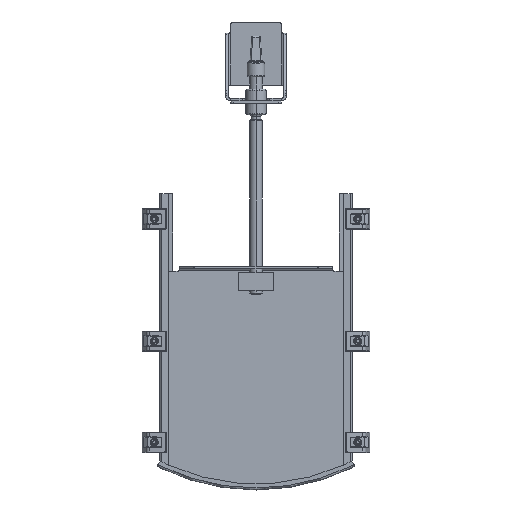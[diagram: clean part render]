
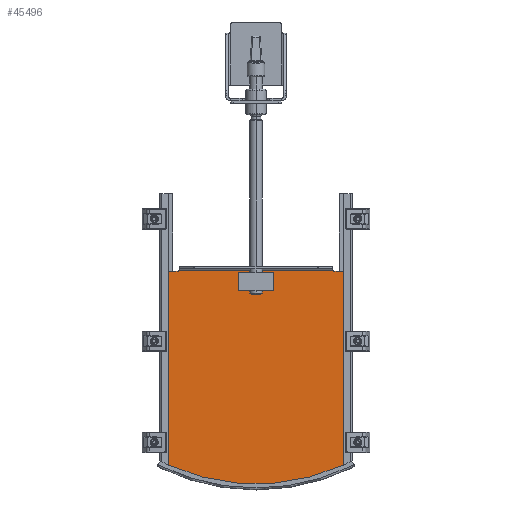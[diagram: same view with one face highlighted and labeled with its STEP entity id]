
A CAD part, top view. The second image highlights one B-rep face of the part: STEP entity #45496.
In plain terms, the highlighted planar face has unit normal (0, 0, 1).
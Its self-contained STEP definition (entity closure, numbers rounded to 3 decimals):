
#526 = CARTESIAN_POINT ( 'NONE',  ( -180., 422., 33. ) ) ;
#1391 = LINE ( 'NONE', #26203, #12256 ) ;
#1488 = CARTESIAN_POINT ( 'NONE',  ( -34., 417.5, 33. ) ) ;
#1587 = VERTEX_POINT ( 'NONE', #13048 ) ;
#1876 = VERTEX_POINT ( 'NONE', #27683 ) ;
#2156 = FACE_BOUND ( 'NONE', #32836, .T. ) ;
#3061 = VERTEX_POINT ( 'NONE', #12238 ) ;
#3088 = CARTESIAN_POINT ( 'NONE',  ( 173.172, 420., 33. ) ) ;
#3237 = CIRCLE ( 'NONE', #26691, 2. ) ;
#4096 = DIRECTION ( 'NONE',  ( 1., 0., 0. ) ) ;
#4277 = ORIENTED_EDGE ( 'NONE', *, *, #11898, .F. ) ;
#4356 = AXIS2_PLACEMENT_3D ( 'NONE', #22464, #11662, #4096 ) ;
#5110 = ORIENTED_EDGE ( 'NONE', *, *, #24823, .F. ) ;
#5684 = ORIENTED_EDGE ( 'NONE', *, *, #29035, .T. ) ;
#7164 = EDGE_CURVE ( 'NONE', #1587, #43551, #18229, .T. ) ;
#8668 = DIRECTION ( 'NONE',  ( 0., 1., 0. ) ) ;
#8710 = VERTEX_POINT ( 'NONE', #39878 ) ;
#9760 = DIRECTION ( 'NONE',  ( 1., 0., 0. ) ) ;
#10350 = ORIENTED_EDGE ( 'NONE', *, *, #38325, .T. ) ;
#10518 = VERTEX_POINT ( 'NONE', #21003 ) ;
#10664 = DIRECTION ( 'NONE',  ( 1., 0., 0. ) ) ;
#10809 = DIRECTION ( 'NONE',  ( 1., 0., 0. ) ) ;
#10877 = DIRECTION ( 'NONE',  ( 0., 0., -1. ) ) ;
#11662 = DIRECTION ( 'NONE',  ( 0., 0., 1. ) ) ;
#11898 = EDGE_CURVE ( 'NONE', #40468, #38365, #12506, .T. ) ;
#12238 = CARTESIAN_POINT ( 'NONE',  ( 172.995, 37.282, 33. ) ) ;
#12256 = VECTOR ( 'NONE', #15409, 1000. ) ;
#12506 = LINE ( 'NONE', #1488, #25665 ) ;
#13048 = CARTESIAN_POINT ( 'NONE',  ( -152., 422., 33. ) ) ;
#13473 = ORIENTED_EDGE ( 'NONE', *, *, #30417, .T. ) ;
#14190 = CARTESIAN_POINT ( 'NONE',  ( 152., 422., 33. ) ) ;
#14814 = EDGE_CURVE ( 'NONE', #38365, #10518, #1391, .T. ) ;
#15236 = ORIENTED_EDGE ( 'NONE', *, *, #14814, .F. ) ;
#15409 = DIRECTION ( 'NONE',  ( 1., 0., 0. ) ) ;
#15532 = ORIENTED_EDGE ( 'NONE', *, *, #7164, .F. ) ;
#16833 = VECTOR ( 'NONE', #23739, 1000. ) ;
#17862 = LINE ( 'NONE', #32555, #42089 ) ;
#18229 = LINE ( 'NONE', #526, #30090 ) ;
#18310 = DIRECTION ( 'NONE',  ( -1., 0., 0. ) ) ;
#19738 = EDGE_CURVE ( 'NONE', #43050, #40468, #17862, .T. ) ;
#19849 = PLANE ( 'NONE',  #23550 ) ;
#20016 = DIRECTION ( 'NONE',  ( 0., -1., 0. ) ) ;
#20368 = ORIENTED_EDGE ( 'NONE', *, *, #44498, .T. ) ;
#20596 = EDGE_CURVE ( 'NONE', #8710, #43551, #3237, .T. ) ;
#21003 = CARTESIAN_POINT ( 'NONE',  ( 34., 382.5, 33. ) ) ;
#21004 = DIRECTION ( 'NONE',  ( -1., 0., 0. ) ) ;
#21780 = CARTESIAN_POINT ( 'NONE',  ( -34., 382.5, 33. ) ) ;
#22015 = CARTESIAN_POINT ( 'NONE',  ( -34., 417.5, 33. ) ) ;
#22464 = CARTESIAN_POINT ( 'NONE',  ( 0., 420., 33. ) ) ;
#22864 = DIRECTION ( 'NONE',  ( 0., -1., 0. ) ) ;
#23550 = AXIS2_PLACEMENT_3D ( 'NONE', #44881, #40520, #9760 ) ;
#23568 = CARTESIAN_POINT ( 'NONE',  ( -154., 420., 33. ) ) ;
#23739 = DIRECTION ( 'NONE',  ( -1., 0., 0. ) ) ;
#24158 = CIRCLE ( 'NONE', #4356, 420. ) ;
#24780 = CARTESIAN_POINT ( 'NONE',  ( 172.995, 420., 33. ) ) ;
#24823 = EDGE_CURVE ( 'NONE', #37235, #3061, #40922, .T. ) ;
#25558 = CARTESIAN_POINT ( 'NONE',  ( -154., 422., 33. ) ) ;
#25665 = VECTOR ( 'NONE', #22864, 1000. ) ;
#26203 = CARTESIAN_POINT ( 'NONE',  ( -34., 382.5, 33. ) ) ;
#26691 = AXIS2_PLACEMENT_3D ( 'NONE', #35198, #42274, #10809 ) ;
#26941 = EDGE_CURVE ( 'NONE', #10518, #43050, #43575, .T. ) ;
#27683 = CARTESIAN_POINT ( 'NONE',  ( -172.995, 37.282, 33. ) ) ;
#28091 = LINE ( 'NONE', #3088, #39952 ) ;
#28541 = DIRECTION ( 'NONE',  ( 1., 0., 0. ) ) ;
#28602 = EDGE_LOOP ( 'NONE', ( #5110, #5684, #43043, #15532, #34297, #13473, #20368, #10350 ) ) ;
#28774 = ORIENTED_EDGE ( 'NONE', *, *, #19738, .F. ) ;
#29035 = EDGE_CURVE ( 'NONE', #37235, #8710, #28091, .T. ) ;
#30090 = VECTOR ( 'NONE', #28541, 1000. ) ;
#30417 = EDGE_CURVE ( 'NONE', #37867, #35962, #40977, .T. ) ;
#30670 = VECTOR ( 'NONE', #20016, 1000. ) ;
#32555 = CARTESIAN_POINT ( 'NONE',  ( -34., 417.5, 33. ) ) ;
#32836 = EDGE_LOOP ( 'NONE', ( #15236, #4277, #28774, #43004 ) ) ;
#33828 = AXIS2_PLACEMENT_3D ( 'NONE', #25558, #10877, #10664 ) ;
#34297 = ORIENTED_EDGE ( 'NONE', *, *, #39045, .T. ) ;
#35105 = LINE ( 'NONE', #41492, #38812 ) ;
#35198 = CARTESIAN_POINT ( 'NONE',  ( 154., 422., 33. ) ) ;
#35283 = CARTESIAN_POINT ( 'NONE',  ( -172.995, 420., 33. ) ) ;
#35962 = VERTEX_POINT ( 'NONE', #35283 ) ;
#37235 = VERTEX_POINT ( 'NONE', #24780 ) ;
#37485 = CARTESIAN_POINT ( 'NONE',  ( 172.995, 42.741, 33. ) ) ;
#37867 = VERTEX_POINT ( 'NONE', #23568 ) ;
#38325 = EDGE_CURVE ( 'NONE', #1876, #3061, #24158, .T. ) ;
#38365 = VERTEX_POINT ( 'NONE', #21780 ) ;
#38812 = VECTOR ( 'NONE', #41941, 1000. ) ;
#39045 = EDGE_CURVE ( 'NONE', #1587, #37867, #41873, .T. ) ;
#39047 = VECTOR ( 'NONE', #8668, 1000. ) ;
#39432 = CARTESIAN_POINT ( 'NONE',  ( 34., 417.5, 33. ) ) ;
#39878 = CARTESIAN_POINT ( 'NONE',  ( 154., 420., 33. ) ) ;
#39952 = VECTOR ( 'NONE', #21004, 1000. ) ;
#40468 = VERTEX_POINT ( 'NONE', #22015 ) ;
#40520 = DIRECTION ( 'NONE',  ( 0., 0., 1. ) ) ;
#40922 = LINE ( 'NONE', #37485, #30670 ) ;
#40977 = LINE ( 'NONE', #44639, #16833 ) ;
#40982 = FACE_OUTER_BOUND ( 'NONE', #28602, .T. ) ;
#41492 = CARTESIAN_POINT ( 'NONE',  ( -172.995, -12.001, 33. ) ) ;
#41873 = CIRCLE ( 'NONE', #33828, 2. ) ;
#41941 = DIRECTION ( 'NONE',  ( 0., -1., 0. ) ) ;
#42089 = VECTOR ( 'NONE', #18310, 1000. ) ;
#42274 = DIRECTION ( 'NONE',  ( 0., 0., -1. ) ) ;
#43004 = ORIENTED_EDGE ( 'NONE', *, *, #26941, .F. ) ;
#43043 = ORIENTED_EDGE ( 'NONE', *, *, #20596, .T. ) ;
#43050 = VERTEX_POINT ( 'NONE', #44873 ) ;
#43551 = VERTEX_POINT ( 'NONE', #14190 ) ;
#43575 = LINE ( 'NONE', #39432, #39047 ) ;
#44498 = EDGE_CURVE ( 'NONE', #35962, #1876, #35105, .T. ) ;
#44639 = CARTESIAN_POINT ( 'NONE',  ( -173.172, 420., 33. ) ) ;
#44873 = CARTESIAN_POINT ( 'NONE',  ( 34., 417.5, 33. ) ) ;
#44881 = CARTESIAN_POINT ( 'NONE',  ( -180., 42.741, 33. ) ) ;
#45496 = ADVANCED_FACE ( 'NONE', ( #40982, #2156 ), #19849, .T. ) ;
